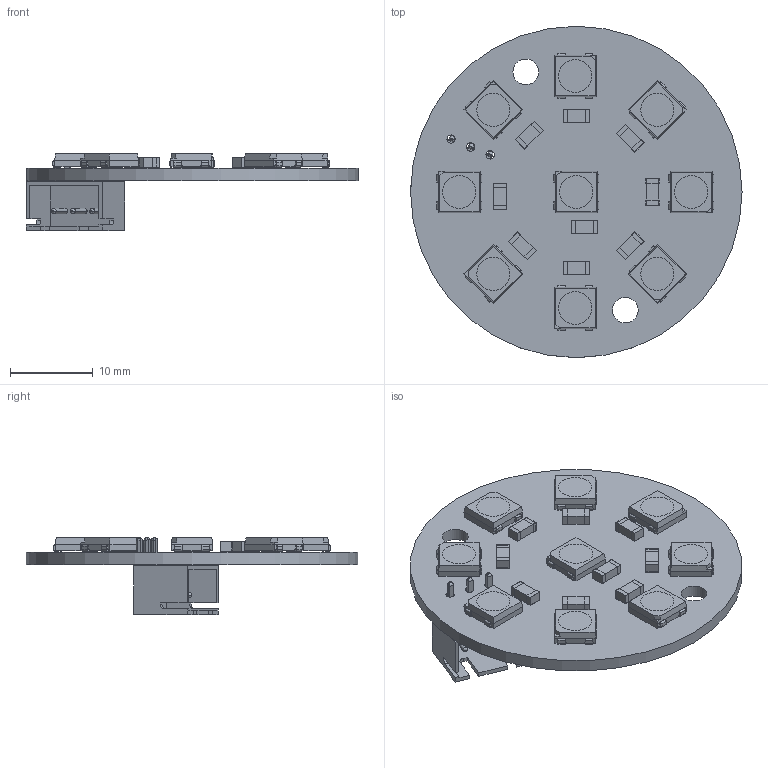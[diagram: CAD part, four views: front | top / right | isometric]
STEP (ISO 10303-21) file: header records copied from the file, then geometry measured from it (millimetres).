
FILE_DESCRIPTION(('KiCad electronic assembly'),'2;1');
FILE_NAME('NEOPIXEL RING.step','2026-05-25T20:03:26',('Pcbnew'),('Kicad' ),'Open CASCADE STEP processor 7.9','KiCad to STEP converter', 'Unknown');
FILE_SCHEMA(('AUTOMOTIVE_DESIGN { 1 0 10303 214 1 1 1 1 }'));
Length unit declared in the file: millimetre
Products named in the file (8): NEOPIXEL RING 1; WS2812B; Capacitor-1206; Body; Contact; ContactClone; User Library-JST-XH-2_5mm-3; NEOPIXEL RING_PCB
Assembly tree (23 placements, depth 3):
  NEOPIXEL RING 1
    WS2812B  x9
    Capacitor-1206  x9
      Body
      Contact
      ContactClone
    User Library-JST-XH-2_5mm-3
    NEOPIXEL RING_PCB
Bounding box: 40.07 x 40 x 9.3 mm (x, y, z)
Volume: 2416.4 mm3; surface area: 4790 mm2
Topology: 86 solids, 86 shells, 1055 faces, 2478 edges, 1610 vertices
Faces by surface type: plane 835, cylinder 139, cone 36, torus 18, revolution 18, bspline 9
Full cylindrical faces by diameter (mm): 1 x3, 3.1 x2, 40 x1
Entity records: 5834 total; most frequent: CARTESIAN_POINT 1134, DIRECTION 919, ORIENTED_EDGE 876, EDGE_CURVE 438, LINE 331, VECTOR 331, AXIS2_PLACEMENT_3D 293, VERTEX_POINT 282
